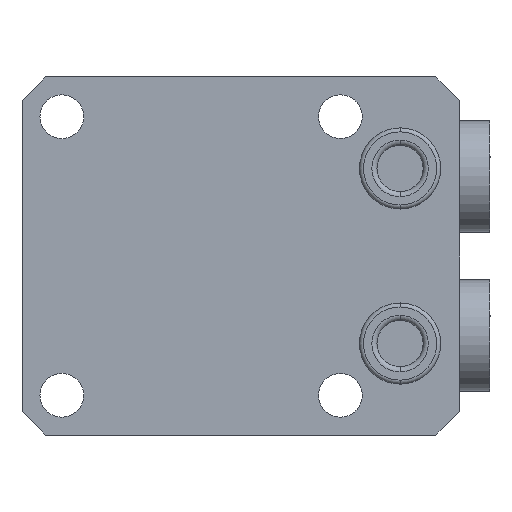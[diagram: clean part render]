
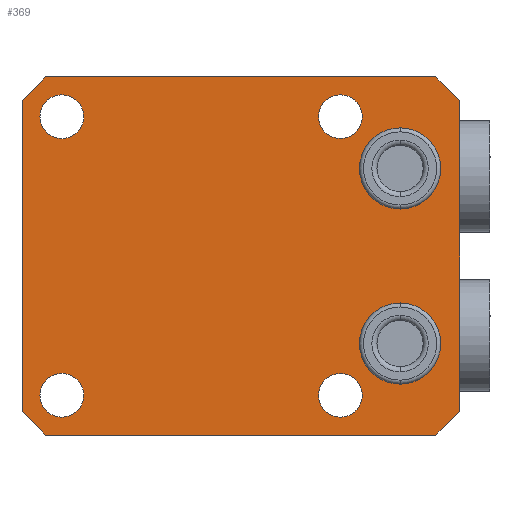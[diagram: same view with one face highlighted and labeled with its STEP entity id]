
A CAD part, front view. The second image highlights one B-rep face of the part: STEP entity #369.
In plain terms, the highlighted planar face has unit normal (0, -1, 0).
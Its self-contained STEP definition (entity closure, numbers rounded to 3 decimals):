
#232=PLANE('',#2699);
#293=FACE_BOUND('',#717,.T.);
#294=FACE_BOUND('',#718,.T.);
#295=FACE_BOUND('',#719,.T.);
#296=FACE_BOUND('',#720,.T.);
#297=FACE_BOUND('',#721,.T.);
#298=FACE_BOUND('',#722,.T.);
#299=FACE_BOUND('',#723,.T.);
#369=ADVANCED_FACE('',(#293,#294,#295,#296,#297,#298,#299),#232,.F.);
#717=EDGE_LOOP('',(#1124,#1125,#1126,#1127,#1128,#1129,#1130,#1131));
#718=EDGE_LOOP('',(#1132,#1133));
#719=EDGE_LOOP('',(#1134,#1135));
#720=EDGE_LOOP('',(#1136,#1137));
#721=EDGE_LOOP('',(#1138,#1139));
#722=EDGE_LOOP('',(#1140,#1141));
#723=EDGE_LOOP('',(#1142,#1143));
#895=CIRCLE('',#2651,5.1);
#911=CIRCLE('',#2672,5.1);
#914=CIRCLE('',#2677,2.75);
#916=CIRCLE('',#2680,2.75);
#919=CIRCLE('',#2685,2.75);
#921=CIRCLE('',#2688,2.75);
#924=CIRCLE('',#2693,2.75);
#925=CIRCLE('',#2694,2.75);
#926=CIRCLE('',#2695,2.75);
#927=CIRCLE('',#2696,2.75);
#928=CIRCLE('',#2697,5.1);
#929=CIRCLE('',#2698,5.1);
#1124=ORIENTED_EDGE('',*,*,#2047,.F.);
#1125=ORIENTED_EDGE('',*,*,#2048,.T.);
#1126=ORIENTED_EDGE('',*,*,#2049,.F.);
#1127=ORIENTED_EDGE('',*,*,#2050,.T.);
#1128=ORIENTED_EDGE('',*,*,#1970,.F.);
#1129=ORIENTED_EDGE('',*,*,#2051,.T.);
#1130=ORIENTED_EDGE('',*,*,#2052,.F.);
#1131=ORIENTED_EDGE('',*,*,#2053,.T.);
#1132=ORIENTED_EDGE('',*,*,#2019,.F.);
#1133=ORIENTED_EDGE('',*,*,#2054,.F.);
#1134=ORIENTED_EDGE('',*,*,#2015,.F.);
#1135=ORIENTED_EDGE('',*,*,#2055,.F.);
#1136=ORIENTED_EDGE('',*,*,#2027,.F.);
#1137=ORIENTED_EDGE('',*,*,#2056,.F.);
#1138=ORIENTED_EDGE('',*,*,#2031,.F.);
#1139=ORIENTED_EDGE('',*,*,#2057,.F.);
#1140=ORIENTED_EDGE('',*,*,#2058,.F.);
#1141=ORIENTED_EDGE('',*,*,#2009,.F.);
#1142=ORIENTED_EDGE('',*,*,#1989,.T.);
#1143=ORIENTED_EDGE('',*,*,#2059,.T.);
#1744=VERTEX_POINT('',#3741);
#1745=VERTEX_POINT('',#3743);
#1758=VERTEX_POINT('',#3779);
#1759=VERTEX_POINT('',#3781);
#1772=VERTEX_POINT('',#3818);
#1773=VERTEX_POINT('',#3820);
#1778=VERTEX_POINT('',#3833);
#1779=VERTEX_POINT('',#3834);
#1782=VERTEX_POINT('',#3842);
#1783=VERTEX_POINT('',#3843);
#1790=VERTEX_POINT('',#3865);
#1791=VERTEX_POINT('',#3866);
#1794=VERTEX_POINT('',#3874);
#1795=VERTEX_POINT('',#3875);
#1810=VERTEX_POINT('',#3940);
#1811=VERTEX_POINT('',#3941);
#1812=VERTEX_POINT('',#3943);
#1813=VERTEX_POINT('',#3945);
#1814=VERTEX_POINT('',#3948);
#1815=VERTEX_POINT('',#3950);
#1970=EDGE_CURVE('',#1744,#1745,#2315,.T.);
#1989=EDGE_CURVE('',#1759,#1758,#895,.T.);
#2009=EDGE_CURVE('',#1772,#1773,#911,.T.);
#2015=EDGE_CURVE('',#1778,#1779,#914,.T.);
#2019=EDGE_CURVE('',#1782,#1783,#916,.T.);
#2027=EDGE_CURVE('',#1790,#1791,#919,.T.);
#2031=EDGE_CURVE('',#1794,#1795,#921,.T.);
#2047=EDGE_CURVE('',#1810,#1811,#2339,.T.);
#2048=EDGE_CURVE('',#1810,#1812,#2340,.T.);
#2049=EDGE_CURVE('',#1813,#1812,#2341,.T.);
#2050=EDGE_CURVE('',#1813,#1745,#2342,.T.);
#2051=EDGE_CURVE('',#1744,#1814,#2343,.T.);
#2052=EDGE_CURVE('',#1815,#1814,#2344,.T.);
#2053=EDGE_CURVE('',#1815,#1811,#2345,.T.);
#2054=EDGE_CURVE('',#1783,#1782,#924,.T.);
#2055=EDGE_CURVE('',#1779,#1778,#925,.T.);
#2056=EDGE_CURVE('',#1791,#1790,#926,.T.);
#2057=EDGE_CURVE('',#1795,#1794,#927,.T.);
#2058=EDGE_CURVE('',#1773,#1772,#928,.T.);
#2059=EDGE_CURVE('',#1758,#1759,#929,.T.);
#2315=LINE('',#3742,#2467);
#2339=LINE('',#3939,#2491);
#2340=LINE('',#3942,#2492);
#2341=LINE('',#3944,#2493);
#2342=LINE('',#3946,#2494);
#2343=LINE('',#3947,#2495);
#2344=LINE('',#3949,#2496);
#2345=LINE('',#3951,#2497);
#2467=VECTOR('',#2964,1.);
#2491=VECTOR('',#3110,1.);
#2492=VECTOR('',#3111,1.);
#2493=VECTOR('',#3112,1.);
#2494=VECTOR('',#3113,1.);
#2495=VECTOR('',#3114,1.);
#2496=VECTOR('',#3115,1.);
#2497=VECTOR('',#3116,1.);
#2651=AXIS2_PLACEMENT_3D('',#3780,#3007,#3008);
#2672=AXIS2_PLACEMENT_3D('',#3819,#3053,#3054);
#2677=AXIS2_PLACEMENT_3D('',#3832,#3066,#3067);
#2680=AXIS2_PLACEMENT_3D('',#3841,#3074,#3075);
#2685=AXIS2_PLACEMENT_3D('',#3864,#3088,#3089);
#2688=AXIS2_PLACEMENT_3D('',#3873,#3096,#3097);
#2693=AXIS2_PLACEMENT_3D('',#3952,#3117,#3118);
#2694=AXIS2_PLACEMENT_3D('',#3953,#3119,#3120);
#2695=AXIS2_PLACEMENT_3D('',#3954,#3121,#3122);
#2696=AXIS2_PLACEMENT_3D('',#3955,#3123,#3124);
#2697=AXIS2_PLACEMENT_3D('',#3956,#3125,#3126);
#2698=AXIS2_PLACEMENT_3D('',#3957,#3127,#3128);
#2699=AXIS2_PLACEMENT_3D('',#3958,#3129,#3130);
#2964=DIRECTION('',(0.,0.,-1.));
#3007=DIRECTION('',(0.,1.,0.));
#3008=DIRECTION('',(0.,0.,1.));
#3053=DIRECTION('',(0.,-1.,0.));
#3054=DIRECTION('',(0.,0.,-1.));
#3066=DIRECTION('',(0.,-1.,0.));
#3067=DIRECTION('',(0.,0.,1.));
#3074=DIRECTION('',(0.,-1.,0.));
#3075=DIRECTION('',(0.,0.,1.));
#3088=DIRECTION('',(0.,-1.,0.));
#3089=DIRECTION('',(0.,0.,1.));
#3096=DIRECTION('',(0.,-1.,0.));
#3097=DIRECTION('',(0.,0.,1.));
#3110=DIRECTION('',(0.,0.,1.));
#3111=DIRECTION('',(0.707,0.,-0.707));
#3112=DIRECTION('',(-1.,0.,0.));
#3113=DIRECTION('',(0.707,0.,0.707));
#3114=DIRECTION('',(-0.707,0.,0.707));
#3115=DIRECTION('',(1.,0.,0.));
#3116=DIRECTION('',(-0.707,0.,-0.707));
#3117=DIRECTION('',(0.,-1.,0.));
#3118=DIRECTION('',(0.,0.,1.));
#3119=DIRECTION('',(0.,-1.,0.));
#3120=DIRECTION('',(0.,0.,1.));
#3121=DIRECTION('',(0.,-1.,0.));
#3122=DIRECTION('',(0.,0.,1.));
#3123=DIRECTION('',(0.,-1.,0.));
#3124=DIRECTION('',(0.,0.,1.));
#3125=DIRECTION('',(0.,-1.,0.));
#3126=DIRECTION('',(0.,0.,-1.));
#3127=DIRECTION('',(0.,1.,0.));
#3128=DIRECTION('',(0.,0.,1.));
#3129=DIRECTION('',(0.,1.,0.));
#3130=DIRECTION('',(0.,0.,-1.));
#3741=CARTESIAN_POINT('',(32.5,0.,19.5));
#3742=CARTESIAN_POINT('',(32.5,0.,-22.5));
#3743=CARTESIAN_POINT('',(32.5,0.,-19.5));
#3779=CARTESIAN_POINT('',(25.,0.,16.1));
#3780=CARTESIAN_POINT('',(25.,0.,11.));
#3781=CARTESIAN_POINT('',(25.,0.,5.9));
#3818=CARTESIAN_POINT('',(25.,0.,-5.9));
#3819=CARTESIAN_POINT('',(25.,0.,-11.));
#3820=CARTESIAN_POINT('',(25.,0.,-16.1));
#3832=CARTESIAN_POINT('',(-17.5,0.,-17.5));
#3833=CARTESIAN_POINT('',(-17.5,0.,-14.75));
#3834=CARTESIAN_POINT('',(-17.5,0.,-20.25));
#3841=CARTESIAN_POINT('',(17.5,0.,-17.5));
#3842=CARTESIAN_POINT('',(17.5,0.,-14.75));
#3843=CARTESIAN_POINT('',(17.5,0.,-20.25));
#3864=CARTESIAN_POINT('',(17.5,0.,17.5));
#3865=CARTESIAN_POINT('',(17.5,0.,20.25));
#3866=CARTESIAN_POINT('',(17.5,0.,14.75));
#3873=CARTESIAN_POINT('',(-17.5,0.,17.5));
#3874=CARTESIAN_POINT('',(-17.5,0.,20.25));
#3875=CARTESIAN_POINT('',(-17.5,0.,14.75));
#3939=CARTESIAN_POINT('',(-22.5,0.,-22.5));
#3940=CARTESIAN_POINT('',(-22.5,0.,-19.5));
#3941=CARTESIAN_POINT('',(-22.5,0.,19.5));
#3942=CARTESIAN_POINT('',(-22.5,0.,-19.5));
#3943=CARTESIAN_POINT('',(-19.5,0.,-22.5));
#3944=CARTESIAN_POINT('',(-22.5,0.,-22.5));
#3945=CARTESIAN_POINT('',(29.5,0.,-22.5));
#3946=CARTESIAN_POINT('',(29.5,0.,-22.5));
#3947=CARTESIAN_POINT('',(32.5,0.,19.5));
#3948=CARTESIAN_POINT('',(29.5,0.,22.5));
#3949=CARTESIAN_POINT('',(-22.5,0.,22.5));
#3950=CARTESIAN_POINT('',(-19.5,0.,22.5));
#3951=CARTESIAN_POINT('',(-19.5,0.,22.5));
#3952=CARTESIAN_POINT('',(17.5,0.,-17.5));
#3953=CARTESIAN_POINT('',(-17.5,0.,-17.5));
#3954=CARTESIAN_POINT('',(17.5,0.,17.5));
#3955=CARTESIAN_POINT('',(-17.5,0.,17.5));
#3956=CARTESIAN_POINT('',(25.,0.,-11.));
#3957=CARTESIAN_POINT('',(25.,0.,11.));
#3958=CARTESIAN_POINT('',(-22.5,0.,22.5));
